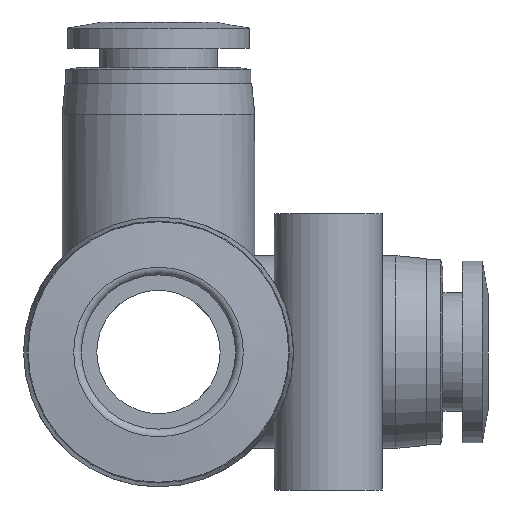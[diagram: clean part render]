
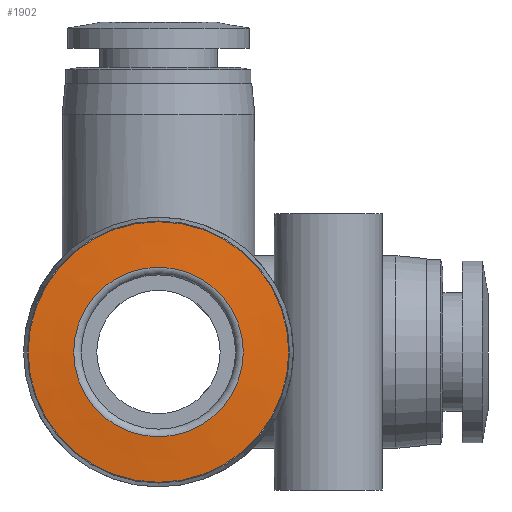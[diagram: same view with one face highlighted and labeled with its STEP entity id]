
A CAD part, left-side view. The second image highlights one B-rep face of the part: STEP entity #1902.
In plain terms, the highlighted conical face has half-angle 85 degrees and reference radius 6.975 mm.
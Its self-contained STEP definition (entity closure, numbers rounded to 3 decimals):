
#33=CONICAL_SURFACE('',#2127,6.975,85.);
#299=FACE_BOUND('',#767,.T.);
#375=CIRCLE('',#2037,5.5);
#417=CIRCLE('',#2126,8.45);
#543=FACE_OUTER_BOUND('',#766,.T.);
#766=EDGE_LOOP('',(#1486));
#767=EDGE_LOOP('',(#1487));
#959=VERTEX_POINT('',#3346);
#1001=VERTEX_POINT('',#3477);
#1146=EDGE_CURVE('',#959,#959,#375,.T.);
#1188=EDGE_CURVE('',#1001,#1001,#417,.T.);
#1486=ORIENTED_EDGE('',*,*,#1146,.T.);
#1487=ORIENTED_EDGE('',*,*,#1188,.F.);
#1902=ADVANCED_FACE('',(#543,#299),#33,.T.);
#2037=AXIS2_PLACEMENT_3D('',#3347,#2387,#2388);
#2126=AXIS2_PLACEMENT_3D('',#3478,#2565,#2566);
#2127=AXIS2_PLACEMENT_3D('',#3479,#2567,#2568);
#2387=DIRECTION('center_axis',(1.,0.,0.));
#2388=DIRECTION('ref_axis',(0.,0.,-1.));
#2565=DIRECTION('center_axis',(1.,0.,0.));
#2566=DIRECTION('ref_axis',(0.,0.,-1.));
#2567=DIRECTION('center_axis',(1.,0.,0.));
#2568=DIRECTION('ref_axis',(0.,1.,0.));
#3346=CARTESIAN_POINT('',(-37.55,5.5,0.));
#3347=CARTESIAN_POINT('Origin',(-37.55,0.,0.));
#3477=CARTESIAN_POINT('',(-37.292,8.45,0.));
#3478=CARTESIAN_POINT('Origin',(-37.292,0.,0.));
#3479=CARTESIAN_POINT('Origin',(-37.421,0.,0.));
